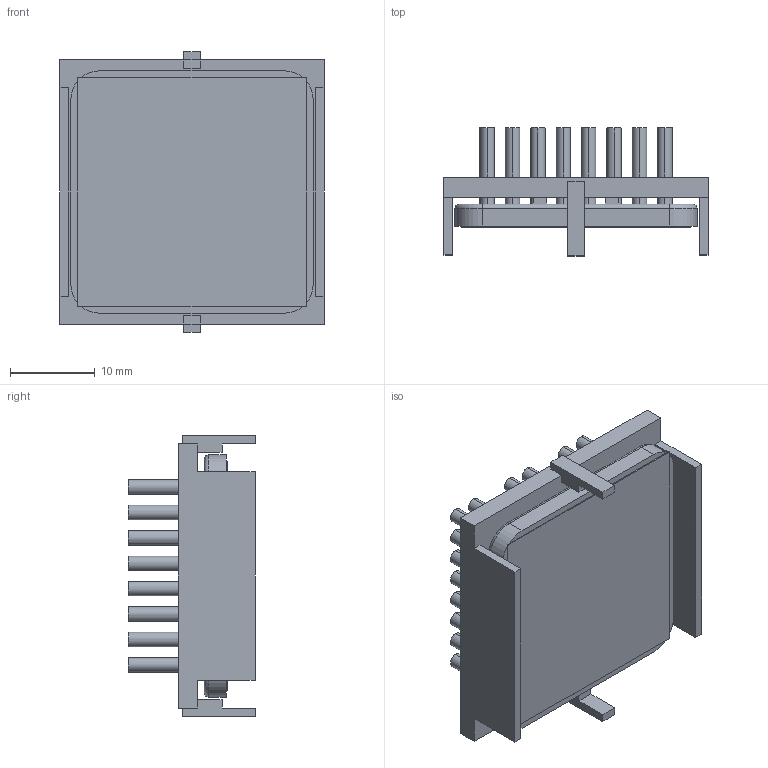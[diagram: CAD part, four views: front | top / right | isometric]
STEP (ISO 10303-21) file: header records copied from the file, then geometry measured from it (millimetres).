
FILE_DESCRIPTION (( 'STEP AP214' ), '1' );
FILE_NAME ('INM29002-12PCU-2.6Y.STEP', '2023-03-02T23:04:03', ( '' ), ( '' ), 'SwSTEP 2.0', 'SolidWorks 2020', '' );
FILE_SCHEMA (( 'AUTOMOTIVE_DESIGN' ));
Length unit declared in the file: inch
Products named in the file (1): INM29002-12PCU-2.6Y
Bounding box: 31.2 x 15.1 x 33.2 mm (x, y, z)
Volume: 4724.5 mm3; surface area: 8355.8 mm2
Topology: 3 solids, 3 shells, 250 faces, 556 edges, 368 vertices
Faces by surface type: plane 126, cylinder 120, torus 4
Entity records: 10316 total; most frequent: DIRECTION 1302, CARTESIAN_POINT 1175, ORIENTED_EDGE 1112, EDGE_CURVE 556, AXIS2_PLACEMENT_3D 495, VERTEX_POINT 368, LINE 312, VECTOR 312
